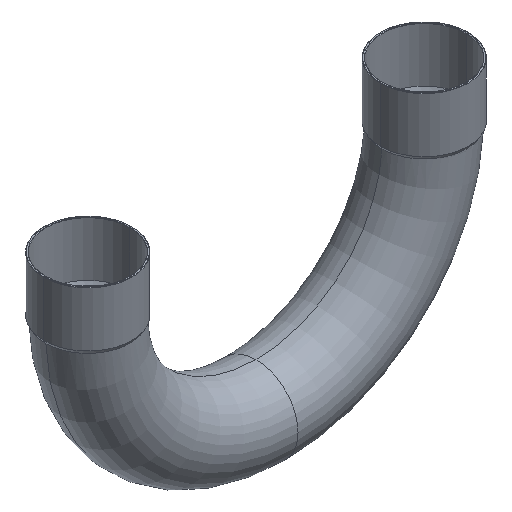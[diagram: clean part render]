
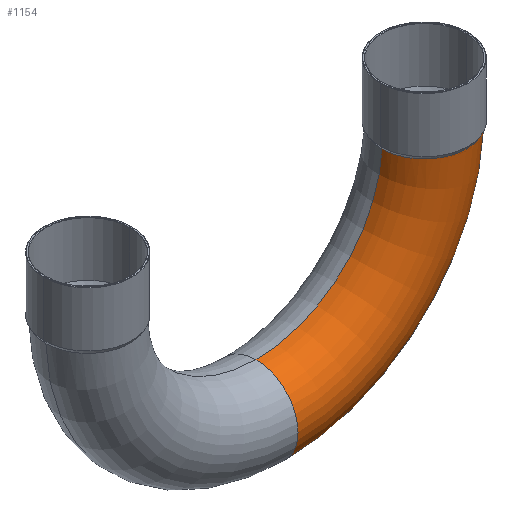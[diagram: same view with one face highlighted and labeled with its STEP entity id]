
A CAD part, isometric view. The second image highlights one B-rep face of the part: STEP entity #1154.
In plain terms, the highlighted toroidal (fillet/blend) face has major radius 108 mm and minor radius 27 mm.
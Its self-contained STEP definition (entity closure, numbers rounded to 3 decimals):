
#51=CARTESIAN_POINT('',(22.035,0.,-135.0));
#52=VERTEX_POINT('',#51);
#85=CARTESIAN_POINT('',(22.035,0.,-81.0));
#86=VERTEX_POINT('',#85);
#109=CARTESIAN_POINT('',(156.959,0.,-4.532));
#110=VERTEX_POINT('',#109);
#111=CARTESIAN_POINT('',(22.035,0.,0.0));
#112=DIRECTION('',(0.0,-1.0,0.0));
#113=DIRECTION('',(0.0,0.0,-1.0));
#114=AXIS2_PLACEMENT_3D('',#111,#112,#113);
#115=CIRCLE('',#114,135.0);
#116=EDGE_CURVE('',#52,#110,#115,.T.);
#119=CARTESIAN_POINT('',(102.926,0.,-4.21));
#120=VERTEX_POINT('',#119);
#121=CARTESIAN_POINT('',(22.035,0.,0.0));
#122=DIRECTION('',(0.0,1.0,0.0));
#123=DIRECTION('',(0.0,0.0,-1.0));
#124=AXIS2_PLACEMENT_3D('',#121,#122,#123);
#125=CIRCLE('',#124,81.0);
#126=EDGE_CURVE('',#120,#86,#125,.T.);
#1115=CARTESIAN_POINT('',(22.035,0.,0.0));
#1116=DIRECTION('',(0.0,-1.0,0.0));
#1117=DIRECTION('',(0.0,0.0,-1.0));
#1118=AXIS2_PLACEMENT_3D('',#1115,#1116,#1117);
#1119=TOROIDAL_SURFACE('',#1118,108.0,27.0);
#1120=ORIENTED_EDGE('',*,*,#116,.T.);
#1121=CARTESIAN_POINT('',(156.959,0.,-4.532));
#1122=CARTESIAN_POINT('',(156.959,-1.99,-4.532));
#1123=CARTESIAN_POINT('',(156.739,-3.974,-4.531));
#1124=CARTESIAN_POINT('',(155.866,-7.857,-4.527));
#1125=CARTESIAN_POINT('',(155.217,-9.745,-4.524));
#1126=CARTESIAN_POINT('',(152.862,-14.722,-4.514));
#1127=CARTESIAN_POINT('',(150.751,-17.576,-4.505));
#1128=CARTESIAN_POINT('',(145.553,-22.317,-4.481));
#1129=CARTESIAN_POINT('',(142.515,-24.157,-4.467));
#1130=CARTESIAN_POINT('',(135.903,-26.569,-4.433));
#1131=CARTESIAN_POINT('',(132.393,-27.118,-4.414));
#1132=CARTESIAN_POINT('',(125.358,-26.839,-4.373));
#1133=CARTESIAN_POINT('',(121.902,-26.015,-4.351));
#1134=CARTESIAN_POINT('',(115.502,-23.087,-4.308));
#1135=CARTESIAN_POINT('',(112.619,-21.013,-4.288));
#1136=CARTESIAN_POINT('',(107.813,-15.88,-4.251));
#1137=CARTESIAN_POINT('',(105.934,-12.87,-4.236));
#1138=CARTESIAN_POINT('',(103.521,-6.522,-4.216));
#1139=CARTESIAN_POINT('',(102.926,-3.273,-4.21));
#1140=CARTESIAN_POINT('',(102.926,0.,-4.21));
#1141=B_SPLINE_CURVE_WITH_KNOTS('',3,(#1121,#1122,#1123,#1124,#1125,#1126,#1127,#1128,#1129,#1130,#1131,#1132,#1133,#1134,#1135,#1136,#1137,#1138,#1139,#1140),.UNSPECIFIED.,.F.,.U.,(4,2,2,2,2,2,2,2,2,4),(-17.021,-16.424,-15.827,-14.772,-13.716,-12.66,-11.604,-10.549,-9.495,-8.511),.UNSPECIFIED.);
#1142=EDGE_CURVE('',#110,#120,#1141,.T.);
#1143=ORIENTED_EDGE('',*,*,#1142,.T.);
#1144=ORIENTED_EDGE('',*,*,#126,.T.);
#1145=CARTESIAN_POINT('',(22.035,0.,-108.0));
#1146=DIRECTION('',(-1.0,0.0,0.0));
#1147=DIRECTION('',(0.0,0.0,-1.0));
#1148=AXIS2_PLACEMENT_3D('',#1145,#1146,#1147);
#1149=CIRCLE('',#1148,27.0);
#1150=EDGE_CURVE('',#52,#86,#1149,.T.);
#1151=ORIENTED_EDGE('',*,*,#1150,.F.);
#1152=EDGE_LOOP('',(#1120,#1143,#1144,#1151));
#1153=FACE_OUTER_BOUND('',#1152,.T.);
#1154=ADVANCED_FACE('',(#1153),#1119,.T.);
